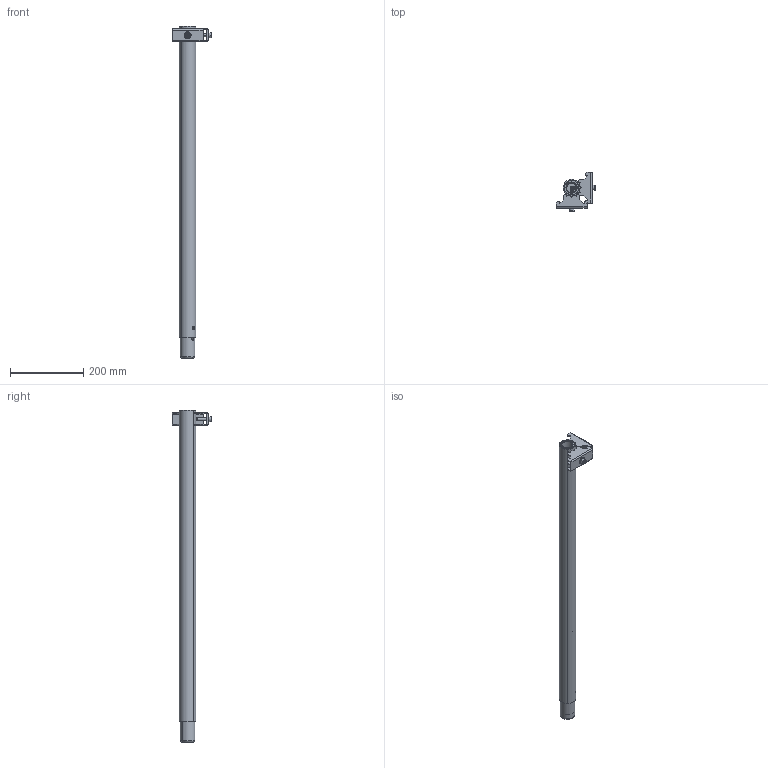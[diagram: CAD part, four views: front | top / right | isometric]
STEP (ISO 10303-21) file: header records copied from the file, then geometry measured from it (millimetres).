
FILE_DESCRIPTION (( 'STEP AP214' ), '1' );
FILE_NAME ('76288 Ben 880 2-koppl..STEP', '2014-04-15T08:39:47', ( '' ), ( '' ), 'SwSTEP 2.0', 'SolidWorks 2012', '' );
FILE_SCHEMA (( 'AUTOMOTIVE_DESIGN' ));
Length unit declared in the file: millimetre
Products named in the file (10): Flat Washer Narrow_AM_B18.22M - Plain washer, 8 mm, narrow; Socket Head Cap Screw_AM_B18.3.1M - 8 x 1.25 x 60 Hex SHCS -- 28SHX; Kopplingsbeslag; Ben 850mm skarv; Benf顤l鄚gning; Kurts benf顤l鄚gning; Benkurts skarv; Plastplugg benf顤l鄚gning; R顤 850mm skarv; 76288 Ben 880 2-koppl.
Assembly tree (12 placements, depth 3):
  76288 Ben 880 2-koppl.
    Ben 850mm skarv
      R顤 850mm skarv
      Plastplugg benf顤l鄚gning
      Benkurts skarv
      Kurts benf顤l鄚gning
      Benf顤l鄚gning
    Kopplingsbeslag  x2
    Socket Head Cap Screw_AM_B18.3.1M - 8 x 1.25 x 60 Hex SHCS -- 28SHX  x2
    Flat Washer Narrow_AM_B18.22M - Plain washer, 8 mm, narrow  x2
Bounding box: 108.27 x 108.27 x 906.5 mm (x, y, z)
Volume: 389116.1 mm3; surface area: 356258.3 mm2
Topology: 11 solids, 11 shells, 556 faces, 1440 edges, 902 vertices
Faces by surface type: cone 212, cylinder 170, plane 168, torus 6
Entity records: 11728 total; most frequent: CARTESIAN_POINT 2562, DIRECTION 1764, ORIENTED_EDGE 1600, EDGE_CURVE 800, AXIS2_PLACEMENT_3D 677, VERTEX_POINT 503, LINE 410, VECTOR 410
